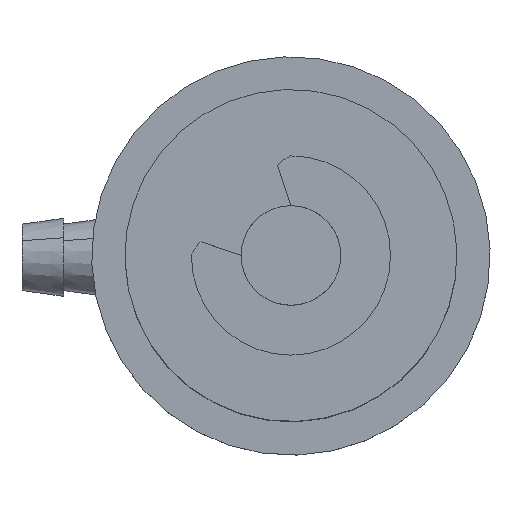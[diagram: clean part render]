
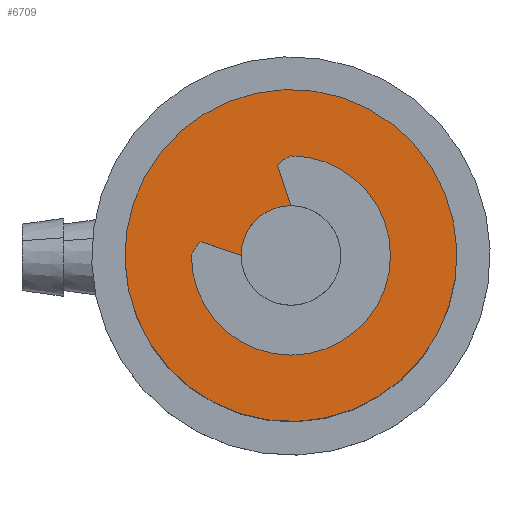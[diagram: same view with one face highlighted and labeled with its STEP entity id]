
A CAD part, top view. The second image highlights one B-rep face of the part: STEP entity #6709.
In plain terms, the highlighted planar face has unit normal (0, 0, 1).
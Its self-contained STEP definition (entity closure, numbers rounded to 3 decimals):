
#1278 = VERTEX_POINT ( 'NONE', #4374 ) ;
#1299 = VERTEX_POINT ( 'NONE', #10583 ) ;
#1303 = EDGE_LOOP ( 'NONE', ( #8068, #5666 ) ) ;
#1723 = DIRECTION ( 'NONE',  ( 0.309, 0.951, 0. ) ) ;
#1876 = DIRECTION ( 'NONE',  ( 0., 0., 1. ) ) ;
#1911 = CARTESIAN_POINT ( 'NONE',  ( -0.057, -1.107, 37.5 ) ) ;
#2257 = AXIS2_PLACEMENT_3D ( 'NONE', #1911, #1876, #1723 ) ;
#2291 = PLANE ( 'NONE',  #6907 ) ;
#2777 = CARTESIAN_POINT ( 'NONE',  ( -0.057, -1.107, 37.5 ) ) ;
#2796 = EDGE_CURVE ( 'NONE', #12239, #1278, #7807, .T. ) ;
#2868 = CARTESIAN_POINT ( 'NONE',  ( -0.057, -1.107, 37.5 ) ) ;
#3775 = DIRECTION ( 'NONE',  ( 0.309, 0.951, 0. ) ) ;
#3781 = EDGE_CURVE ( 'NONE', #1299, #9848, #11007, .T. ) ;
#3866 = DIRECTION ( 'NONE',  ( -0.309, -0.951, 0. ) ) ;
#4314 = DIRECTION ( 'NONE',  ( 0., 0., 1. ) ) ;
#4374 = CARTESIAN_POINT ( 'NONE',  ( 3.03, 8.405, 37.5 ) ) ;
#4558 = DIRECTION ( 'NONE',  ( 0., 0., 1. ) ) ;
#5376 = ORIENTED_EDGE ( 'NONE', *, *, #12797, .T. ) ;
#5666 = ORIENTED_EDGE ( 'NONE', *, *, #3781, .F. ) ;
#6306 = FACE_BOUND ( 'NONE', #1303, .T. ) ;
#6468 = EDGE_LOOP ( 'NONE', ( #5376, #7444 ) ) ;
#6709 = ADVANCED_FACE ( 'NONE', ( #6306, #8709 ), #2291, .T. ) ;
#6907 = AXIS2_PLACEMENT_3D ( 'NONE', #10345, #4314, #11353 ) ;
#7051 = AXIS2_PLACEMENT_3D ( 'NONE', #2777, #9781, #3775 ) ;
#7444 = ORIENTED_EDGE ( 'NONE', *, *, #2796, .T. ) ;
#7807 = CIRCLE ( 'NONE', #2257, 10. ) ;
#7976 = AXIS2_PLACEMENT_3D ( 'NONE', #2868, #9879, #3866 ) ;
#8068 = ORIENTED_EDGE ( 'NONE', *, *, #8888, .F. ) ;
#8197 = CIRCLE ( 'NONE', #7976, 3. ) ;
#8709 = FACE_OUTER_BOUND ( 'NONE', #6468, .T. ) ;
#8888 = EDGE_CURVE ( 'NONE', #9848, #1299, #8197, .T. ) ;
#9781 = DIRECTION ( 'NONE',  ( 0., 0., 1. ) ) ;
#9848 = VERTEX_POINT ( 'NONE', #11744 ) ;
#9879 = DIRECTION ( 'NONE',  ( 0., 0., 1. ) ) ;
#10345 = CARTESIAN_POINT ( 'NONE',  ( -6.559, 11.643, 37.5 ) ) ;
#10583 = CARTESIAN_POINT ( 'NONE',  ( 0.869, 1.747, 37.5 ) ) ;
#10605 = CARTESIAN_POINT ( 'NONE',  ( -0.057, -1.107, 37.5 ) ) ;
#10715 = CARTESIAN_POINT ( 'NONE',  ( -3.143, -10.618, 37.5 ) ) ;
#10990 = AXIS2_PLACEMENT_3D ( 'NONE', #10605, #4558, #11600 ) ;
#11007 = CIRCLE ( 'NONE', #10990, 3. ) ;
#11353 = DIRECTION ( 'NONE',  ( -0.309, -0.951, 0. ) ) ;
#11600 = DIRECTION ( 'NONE',  ( -0.309, -0.951, 0. ) ) ;
#11744 = CARTESIAN_POINT ( 'NONE',  ( -0.983, -3.96, 37.5 ) ) ;
#11791 = CIRCLE ( 'NONE', #7051, 10. ) ;
#12239 = VERTEX_POINT ( 'NONE', #10715 ) ;
#12797 = EDGE_CURVE ( 'NONE', #1278, #12239, #11791, .T. ) ;
